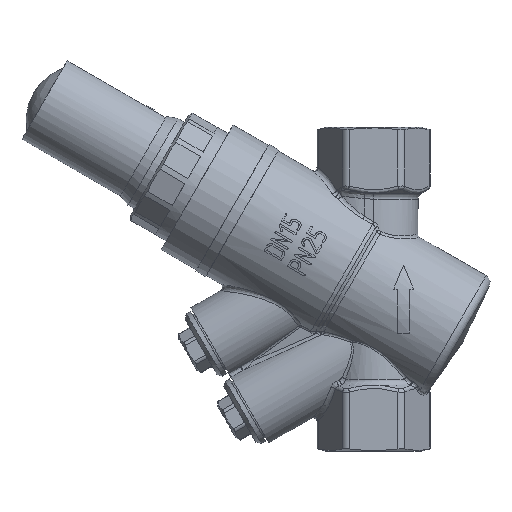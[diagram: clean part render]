
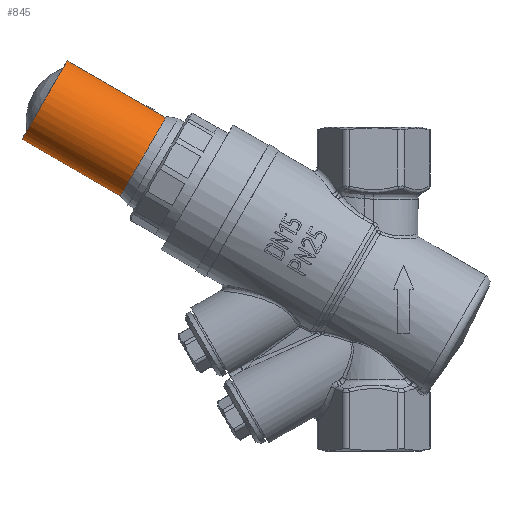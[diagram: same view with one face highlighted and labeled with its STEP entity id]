
A CAD part, top view. The second image highlights one B-rep face of the part: STEP entity #845.
In plain terms, the highlighted cylindrical face has radius 11.5 mm (diameter 23 mm), a full revolution.
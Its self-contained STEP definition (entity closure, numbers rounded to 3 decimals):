
#845=ADVANCED_FACE('',(#17363,#17365),#17367,.T.);
#17363=FACE_BOUND('',#17364,.T.);
#17364=EDGE_LOOP('',(#22793,#22794,#22795,#22796,#22797));
#17365=FACE_BOUND('',#17366,.T.);
#17366=EDGE_LOOP('',(#22798,#22799));
#17367=CYLINDRICAL_SURFACE('',#17368,11.5);
#17368=AXIS2_PLACEMENT_3D('',#17369,#17370,#17371);
#17369=CARTESIAN_POINT('',(-82.272,47.5,0.));
#17370=DIRECTION('',(0.866,-0.5,0.));
#17371=DIRECTION('',(0.,0.,-1.));
#22793=ORIENTED_EDGE('',*,*,#25080,.T.);
#22794=ORIENTED_EDGE('',*,*,#25081,.T.);
#22795=ORIENTED_EDGE('',*,*,#25082,.T.);
#22796=ORIENTED_EDGE('',*,*,#25083,.T.);
#22797=ORIENTED_EDGE('',*,*,#25084,.T.);
#22798=ORIENTED_EDGE('',*,*,#25076,.F.);
#22799=ORIENTED_EDGE('',*,*,#25075,.F.);
#25075=EDGE_CURVE('',#28692,#28693,#28694,.F.);
#25076=EDGE_CURVE('',#28693,#28692,#28695,.F.);
#25080=EDGE_CURVE('',#28702,#28703,#28704,.F.);
#25081=EDGE_CURVE('',#28703,#28705,#28706,.T.);
#25082=EDGE_CURVE('',#28705,#28707,#28708,.T.);
#25083=EDGE_CURVE('',#28707,#28709,#28710,.T.);
#25084=EDGE_CURVE('',#28709,#28702,#28711,.T.);
#28692=VERTEX_POINT('',#50493);
#28693=VERTEX_POINT('',#50494);
#28694=CIRCLE('',#50495,11.5);
#28695=CIRCLE('',#50499,11.5);
#28702=VERTEX_POINT('',#50518);
#28703=VERTEX_POINT('',#50519);
#28704=LINE('',#50520,#50521);
#28705=VERTEX_POINT('',#50523);
#28706=CIRCLE('',#50524,11.5);
#28707=VERTEX_POINT('',#50528);
#28708=CIRCLE('',#50529,11.5);
#28709=VERTEX_POINT('',#50533);
#28710=LINE('',#50534,#50535);
#28711=CIRCLE('',#50537,11.5);
#50493=CARTESIAN_POINT('',(-57.632,33.274,-11.5));
#50494=CARTESIAN_POINT('',(-63.382,23.314,0.));
#50495=AXIS2_PLACEMENT_3D('',#50496,#50497,#50498);
#50496=CARTESIAN_POINT('',(-57.632,33.274,0.));
#50497=DIRECTION('',(-0.866,0.5,0.));
#50498=DIRECTION('',(-0.5,-0.866,0.));
#50499=AXIS2_PLACEMENT_3D('',#50500,#50501,#50502);
#50500=CARTESIAN_POINT('',(-57.632,33.274,0.));
#50501=DIRECTION('',(-0.866,0.5,0.));
#50502=DIRECTION('',(0.,0.,-1.));
#50518=CARTESIAN_POINT('',(-52.1,42.96,2.8));
#50519=CARTESIAN_POINT('',(-76.695,57.16,2.8));
#50520=CARTESIAN_POINT('',(-76.695,57.16,2.8));
#50521=VECTOR('',#50522,1.);
#50522=DIRECTION('',(0.866,-0.5,0.));
#50523=CARTESIAN_POINT('',(-82.272,47.5,-11.5));
#50524=AXIS2_PLACEMENT_3D('',#50525,#50526,#50527);
#50525=CARTESIAN_POINT('',(-82.272,47.5,0.));
#50526=DIRECTION('',(0.866,-0.5,0.));
#50527=DIRECTION('',(0.485,0.84,0.243));
#50528=CARTESIAN_POINT('',(-76.695,57.16,-2.8));
#50529=AXIS2_PLACEMENT_3D('',#50530,#50531,#50532);
#50530=CARTESIAN_POINT('',(-82.272,47.5,0.));
#50531=DIRECTION('',(0.866,-0.5,0.));
#50532=DIRECTION('',(0.,0.,-1.));
#50533=CARTESIAN_POINT('',(-52.1,42.96,-2.8));
#50534=CARTESIAN_POINT('',(-76.695,57.16,-2.8));
#50535=VECTOR('',#50536,1.);
#50536=DIRECTION('',(0.866,-0.5,0.));
#50537=AXIS2_PLACEMENT_3D('',#50538,#50539,#50540);
#50538=CARTESIAN_POINT('',(-57.677,33.3,0.));
#50539=DIRECTION('',(0.866,-0.5,0.));
#50540=DIRECTION('',(0.485,0.84,-0.243));
